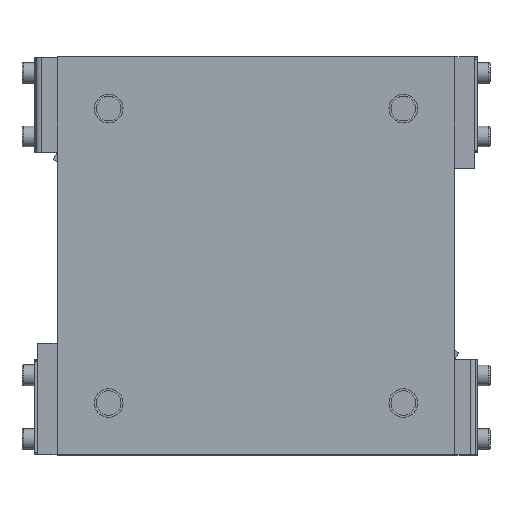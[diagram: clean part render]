
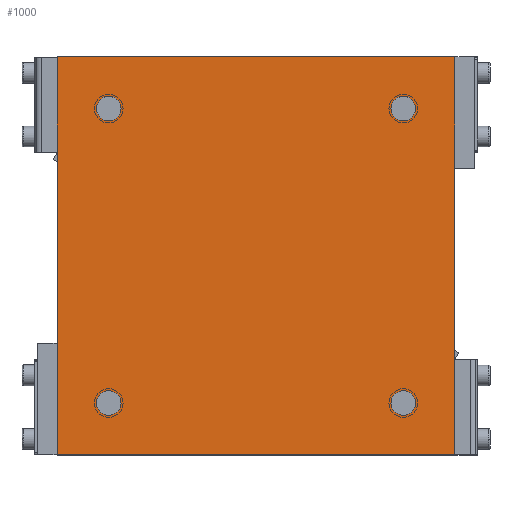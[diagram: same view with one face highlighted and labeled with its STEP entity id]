
A CAD part, top view. The second image highlights one B-rep face of the part: STEP entity #1000.
In plain terms, the highlighted planar face has unit normal (0, 0, 1).
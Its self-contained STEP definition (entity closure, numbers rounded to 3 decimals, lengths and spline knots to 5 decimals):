
#1000=ADVANCED_FACE('360:635',(#1480,#1481,#1482,#1483,#1484),#1485,.T.);
#1480=FACE_BOUND('',#2384,.T.);
#1481=FACE_BOUND('',#2385,.T.);
#1482=FACE_BOUND('',#2386,.T.);
#1483=FACE_BOUND('',#2387,.T.);
#1484=FACE_OUTER_BOUND('',#2388,.T.);
#1485=PLANE('',#2389);
#2384=EDGE_LOOP('',(#3298,#3299));
#2385=EDGE_LOOP('',(#3300,#3301));
#2386=EDGE_LOOP('',(#3302,#3303));
#2387=EDGE_LOOP('',(#3304,#3305));
#2388=EDGE_LOOP('',(#3306,#3307,#3308,#3309));
#2389=AXIS2_PLACEMENT_3D('',#3310,#3311,#3312);
#3298=ORIENTED_EDGE('',*,*,#6257,.T.);
#3299=ORIENTED_EDGE('',*,*,#6248,.T.);
#3300=ORIENTED_EDGE('',*,*,#6258,.T.);
#3301=ORIENTED_EDGE('',*,*,#6244,.T.);
#3302=ORIENTED_EDGE('',*,*,#6259,.T.);
#3303=ORIENTED_EDGE('',*,*,#6240,.T.);
#3304=ORIENTED_EDGE('',*,*,#6260,.T.);
#3305=ORIENTED_EDGE('',*,*,#6236,.T.);
#3306=ORIENTED_EDGE('',*,*,#6261,.T.);
#3307=ORIENTED_EDGE('',*,*,#6262,.T.);
#3308=ORIENTED_EDGE('',*,*,#6263,.T.);
#3309=ORIENTED_EDGE('',*,*,#6264,.T.);
#3310=CARTESIAN_POINT('',(0.0,0.0,0.012));
#3311=DIRECTION('',(0.0,0.0,1.0));
#3312=DIRECTION('',(1.0,-0.0,0.0));
#6236=EDGE_CURVE('557:241',#7202,#7206,#7208,.T.);
#6240=EDGE_CURVE('557:635',#7210,#7214,#7216,.T.);
#6244=EDGE_CURVE('557:1068',#7218,#7222,#7224,.T.);
#6248=EDGE_CURVE('557:1540',#7226,#7230,#7232,.T.);
#6257=EDGE_CURVE('557:1540',#7230,#7226,#7245,.T.);
#6258=EDGE_CURVE('557:1068',#7222,#7218,#7246,.T.);
#6259=EDGE_CURVE('557:635',#7214,#7210,#7247,.T.);
#6260=EDGE_CURVE('557:241',#7206,#7202,#7248,.T.);
#6261=EDGE_CURVE('360:656',#7249,#7250,#7251,.F.);
#6262=EDGE_CURVE('360:668',#7250,#7252,#7253,.F.);
#6263=EDGE_CURVE('360:677',#7252,#7254,#7255,.F.);
#6264=EDGE_CURVE('360:683',#7254,#7249,#7256,.F.);
#7202=VERTEX_POINT('',#8718);
#7206=VERTEX_POINT('',#8723);
#7208=CIRCLE('',#8726,0.00775);
#7210=VERTEX_POINT('',#8728);
#7214=VERTEX_POINT('',#8733);
#7216=CIRCLE('',#8736,0.00775);
#7218=VERTEX_POINT('',#8738);
#7222=VERTEX_POINT('',#8743);
#7224=CIRCLE('',#8746,0.00775);
#7226=VERTEX_POINT('',#8748);
#7230=VERTEX_POINT('',#8753);
#7232=CIRCLE('',#8756,0.00775);
#7245=CIRCLE('',#8773,0.00775);
#7246=CIRCLE('',#8774,0.00775);
#7247=CIRCLE('',#8775,0.00775);
#7248=CIRCLE('',#8776,0.00775);
#7249=VERTEX_POINT('',#8777);
#7250=VERTEX_POINT('',#8778);
#7251=LINE('',#8779,#8780);
#7252=VERTEX_POINT('',#8781);
#7253=LINE('',#8782,#8783);
#7254=VERTEX_POINT('',#8784);
#7255=LINE('',#8785,#8786);
#7256=LINE('',#8787,#8788);
#8718=CARTESIAN_POINT('',(0.08475,0.0925,0.012));
#8723=CARTESIAN_POINT('',(0.10025,0.0925,0.012));
#8726=AXIS2_PLACEMENT_3D('',#11261,#11262,#11263);
#8728=CARTESIAN_POINT('',(-0.10025,0.0925,0.012));
#8733=CARTESIAN_POINT('',(-0.08475,0.0925,0.012));
#8736=AXIS2_PLACEMENT_3D('',#11269,#11270,#11271);
#8738=CARTESIAN_POINT('',(-0.10025,-0.0925,0.012));
#8743=CARTESIAN_POINT('',(-0.08475,-0.0925,0.012));
#8746=AXIS2_PLACEMENT_3D('',#11277,#11278,#11279);
#8748=CARTESIAN_POINT('',(0.08475,-0.0925,0.012));
#8753=CARTESIAN_POINT('',(0.10025,-0.0925,0.012));
#8756=AXIS2_PLACEMENT_3D('',#11285,#11286,#11287);
#8773=AXIS2_PLACEMENT_3D('',#11304,#11305,#11306);
#8774=AXIS2_PLACEMENT_3D('',#11307,#11308,#11309);
#8775=AXIS2_PLACEMENT_3D('',#11310,#11311,#11312);
#8776=AXIS2_PLACEMENT_3D('',#11313,#11314,#11315);
#8777=CARTESIAN_POINT('',(-0.125,0.125,0.012));
#8778=CARTESIAN_POINT('',(-0.125,-0.125,0.012));
#8779=CARTESIAN_POINT('',(-0.125,0.0375,0.012));
#8780=VECTOR('',#11316,1.0);
#8781=CARTESIAN_POINT('',(0.125,-0.125,0.012));
#8782=CARTESIAN_POINT('',(-0.04375,-0.125,0.012));
#8783=VECTOR('',#11317,1.0);
#8784=CARTESIAN_POINT('',(0.125,0.125,0.012));
#8785=CARTESIAN_POINT('',(0.125,-0.0375,0.012));
#8786=VECTOR('',#11318,1.0);
#8787=CARTESIAN_POINT('',(0.04375,0.125,0.012));
#8788=VECTOR('',#11319,1.0);
#11261=CARTESIAN_POINT('',(0.0925,0.0925,0.012));
#11262=DIRECTION('',(-0.0,0.0,-1.0));
#11263=DIRECTION('',(-1.0,0.0,0.0));
#11269=CARTESIAN_POINT('',(-0.0925,0.0925,0.012));
#11270=DIRECTION('',(-0.0,0.0,-1.0));
#11271=DIRECTION('',(-1.0,0.0,0.0));
#11277=CARTESIAN_POINT('',(-0.0925,-0.0925,0.012));
#11278=DIRECTION('',(-0.0,0.0,-1.0));
#11279=DIRECTION('',(-1.0,0.0,0.0));
#11285=CARTESIAN_POINT('',(0.0925,-0.0925,0.012));
#11286=DIRECTION('',(-0.0,0.0,-1.0));
#11287=DIRECTION('',(-1.0,0.0,0.0));
#11304=CARTESIAN_POINT('',(0.0925,-0.0925,0.012));
#11305=DIRECTION('',(-0.0,0.0,-1.0));
#11306=DIRECTION('',(-1.0,0.0,0.0));
#11307=CARTESIAN_POINT('',(-0.0925,-0.0925,0.012));
#11308=DIRECTION('',(-0.0,0.0,-1.0));
#11309=DIRECTION('',(-1.0,0.0,0.0));
#11310=CARTESIAN_POINT('',(-0.0925,0.0925,0.012));
#11311=DIRECTION('',(-0.0,0.0,-1.0));
#11312=DIRECTION('',(-1.0,0.0,0.0));
#11313=CARTESIAN_POINT('',(0.0925,0.0925,0.012));
#11314=DIRECTION('',(-0.0,0.0,-1.0));
#11315=DIRECTION('',(-1.0,0.0,0.0));
#11316=DIRECTION('',(0.,1.0,0.0));
#11317=DIRECTION('',(-1.0,0.,0.0));
#11318=DIRECTION('',(0.0,-1.0,0.0));
#11319=DIRECTION('',(1.0,0.,-0.0));
